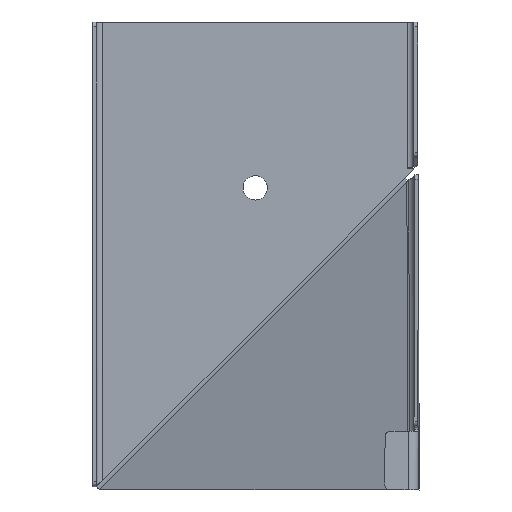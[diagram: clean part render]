
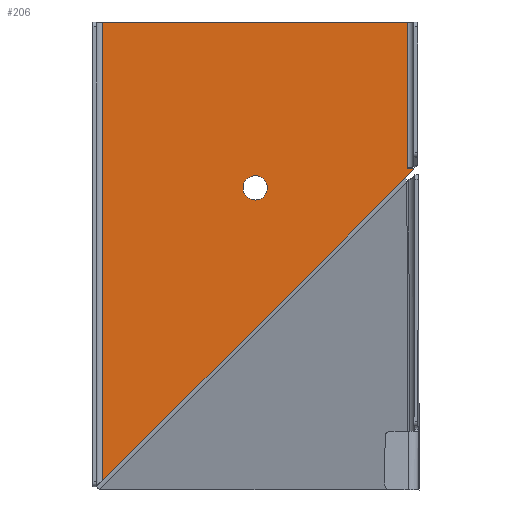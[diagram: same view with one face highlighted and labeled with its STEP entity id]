
A CAD part, front view. The second image highlights one B-rep face of the part: STEP entity #206.
In plain terms, the highlighted planar face has unit normal (0, -1, 0).
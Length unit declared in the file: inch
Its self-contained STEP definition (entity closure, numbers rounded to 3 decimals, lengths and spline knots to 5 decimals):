
#1 = VERTEX_POINT ( 'NONE', #782 ) ;
#2 = ORIENTED_EDGE ( 'NONE', *, *, #126, .T. ) ;
#3 = EDGE_CURVE ( 'NONE', #4, #1, #781, .T. ) ;
#4 = VERTEX_POINT ( 'NONE', #772 ) ;
#5 = ORIENTED_EDGE ( 'NONE', *, *, #3, .T. ) ;
#29 = EDGE_CURVE ( 'NONE', #228, #227, #676, .T. ) ;
#101 = VERTEX_POINT ( 'NONE', #907 ) ;
#126 = EDGE_CURVE ( 'NONE', #1, #135, #1008, .T. ) ;
#127 = ORIENTED_EDGE ( 'NONE', *, *, #134, .F. ) ;
#128 = ORIENTED_EDGE ( 'NONE', *, *, #212, .F. ) ;
#131 = VERTEX_POINT ( 'NONE', #990 ) ;
#134 = EDGE_CURVE ( 'NONE', #131, #135, #988, .T. ) ;
#135 = VERTEX_POINT ( 'NONE', #1038 ) ;
#148 = VERTEX_POINT ( 'NONE', #1007 ) ;
#150 = EDGE_CURVE ( 'NONE', #148, #154, #1006, .T. ) ;
#154 = VERTEX_POINT ( 'NONE', #1056 ) ;
#177 = EDGE_CURVE ( 'NONE', #154, #101, #984, .T. ) ;
#206 = ADVANCED_FACE ( 'NONE', ( #1212, #1135 ), #1130, .F. ) ;
#207 = EDGE_LOOP ( 'NONE', ( #208, #209 ) ) ;
#208 = ORIENTED_EDGE ( 'NONE', *, *, #29, .T. ) ;
#209 = ORIENTED_EDGE ( 'NONE', *, *, #226, .T. ) ;
#210 = EDGE_LOOP ( 'NONE', ( #211, #485, #533, #5, #2, #127, #128 ) ) ;
#211 = ORIENTED_EDGE ( 'NONE', *, *, #177, .F. ) ;
#212 = EDGE_CURVE ( 'NONE', #101, #131, #1156, .T. ) ;
#226 = EDGE_CURVE ( 'NONE', #227, #228, #1126, .T. ) ;
#227 = VERTEX_POINT ( 'NONE', #1188 ) ;
#228 = VERTEX_POINT ( 'NONE', #1187 ) ;
#485 = ORIENTED_EDGE ( 'NONE', *, *, #150, .F. ) ;
#533 = ORIENTED_EDGE ( 'NONE', *, *, #534, .F. ) ;
#534 = EDGE_CURVE ( 'NONE', #4, #148, #1735, .T. ) ;
#672 = DIRECTION ( 'NONE',  ( 0., 0., 1. ) ) ;
#673 = DIRECTION ( 'NONE',  ( 0., 1., 0. ) ) ;
#674 = CARTESIAN_POINT ( 'NONE',  ( 0., 0., 0.875 ) ) ;
#675 = AXIS2_PLACEMENT_3D ( 'NONE', #674, #673, #672 ) ;
#676 = CIRCLE ( 'NONE', #675, 0.156 ) ;
#772 = CARTESIAN_POINT ( 'NONE',  ( -1.954, 0., -2.87577 ) ) ;
#773 = DIRECTION ( 'NONE',  ( 0.707, 0., 0.707 ) ) ;
#774 = VECTOR ( 'NONE', #773, 39.37008 ) ;
#775 = CARTESIAN_POINT ( 'NONE',  ( -2.0334, 0., -2.95518 ) ) ;
#781 = LINE ( 'NONE', #775, #774 ) ;
#782 = CARTESIAN_POINT ( 'NONE',  ( 1.92529, 0., 1.00352 ) ) ;
#907 = CARTESIAN_POINT ( 'NONE',  ( 1.954, 0., 1.1276 ) ) ;
#968 = CARTESIAN_POINT ( 'NONE',  ( -2.0334, 0., -2.95518 ) ) ;
#981 = DIRECTION ( 'NONE',  ( 0., 0., -1. ) ) ;
#982 = VECTOR ( 'NONE', #981, 39.37008 ) ;
#983 = CARTESIAN_POINT ( 'NONE',  ( 1.954, 0., 3. ) ) ;
#984 = LINE ( 'NONE', #983, #982 ) ;
#987 = CARTESIAN_POINT ( 'NONE',  ( 2.032, 0., 3. ) ) ;
#988 = LINE ( 'NONE', #987, #1040 ) ;
#990 = CARTESIAN_POINT ( 'NONE',  ( 2.032, 0., 1.1276 ) ) ;
#1004 = VECTOR ( 'NONE', #1080, 39.37008 ) ;
#1005 = CARTESIAN_POINT ( 'NONE',  ( -2.032, 0., 3. ) ) ;
#1006 = LINE ( 'NONE', #1005, #1098 ) ;
#1007 = CARTESIAN_POINT ( 'NONE',  ( -1.954, 0., 3. ) ) ;
#1008 = LINE ( 'NONE', #968, #1004 ) ;
#1038 = CARTESIAN_POINT ( 'NONE',  ( 2.032, 0., 1.11023 ) ) ;
#1039 = DIRECTION ( 'NONE',  ( 0., 0., -1. ) ) ;
#1040 = VECTOR ( 'NONE', #1039, 39.37008 ) ;
#1056 = CARTESIAN_POINT ( 'NONE',  ( 1.954, 0., 3. ) ) ;
#1080 = DIRECTION ( 'NONE',  ( 0.707, 0., 0.707 ) ) ;
#1097 = DIRECTION ( 'NONE',  ( 1., 0., 0. ) ) ;
#1098 = VECTOR ( 'NONE', #1097, 39.37008 ) ;
#1124 = CARTESIAN_POINT ( 'NONE',  ( 0., 0., 0.875 ) ) ;
#1125 = AXIS2_PLACEMENT_3D ( 'NONE', #1124, #1190, #1189 ) ;
#1126 = CIRCLE ( 'NONE', #1125, 0.156 ) ;
#1129 = AXIS2_PLACEMENT_3D ( 'NONE', #1155, #1154, #1153 ) ;
#1130 = PLANE ( 'NONE',  #1129 ) ;
#1135 = FACE_OUTER_BOUND ( 'NONE', #210, .T. ) ;
#1151 = VECTOR ( 'NONE', #1185, 39.37008 ) ;
#1152 = CARTESIAN_POINT ( 'NONE',  ( 1.954, 0., 1.1276 ) ) ;
#1153 = DIRECTION ( 'NONE',  ( 0., 0., 1. ) ) ;
#1154 = DIRECTION ( 'NONE',  ( 0., 1., 0. ) ) ;
#1155 = CARTESIAN_POINT ( 'NONE',  ( -2.032, 0., 3. ) ) ;
#1156 = LINE ( 'NONE', #1152, #1151 ) ;
#1185 = DIRECTION ( 'NONE',  ( 1., 0., 0. ) ) ;
#1187 = CARTESIAN_POINT ( 'NONE',  ( 0., 0., 1.031 ) ) ;
#1188 = CARTESIAN_POINT ( 'NONE',  ( 0., 0., 0.719 ) ) ;
#1189 = DIRECTION ( 'NONE',  ( 0., 0., 1. ) ) ;
#1190 = DIRECTION ( 'NONE',  ( 0., 1., 0. ) ) ;
#1212 = FACE_BOUND ( 'NONE', #207, .T. ) ;
#1683 = DIRECTION ( 'NONE',  ( 0., 0., 1. ) ) ;
#1684 = VECTOR ( 'NONE', #1683, 39.37008 ) ;
#1685 = CARTESIAN_POINT ( 'NONE',  ( -1.954, 0., -2.95377 ) ) ;
#1735 = LINE ( 'NONE', #1685, #1684 ) ;
